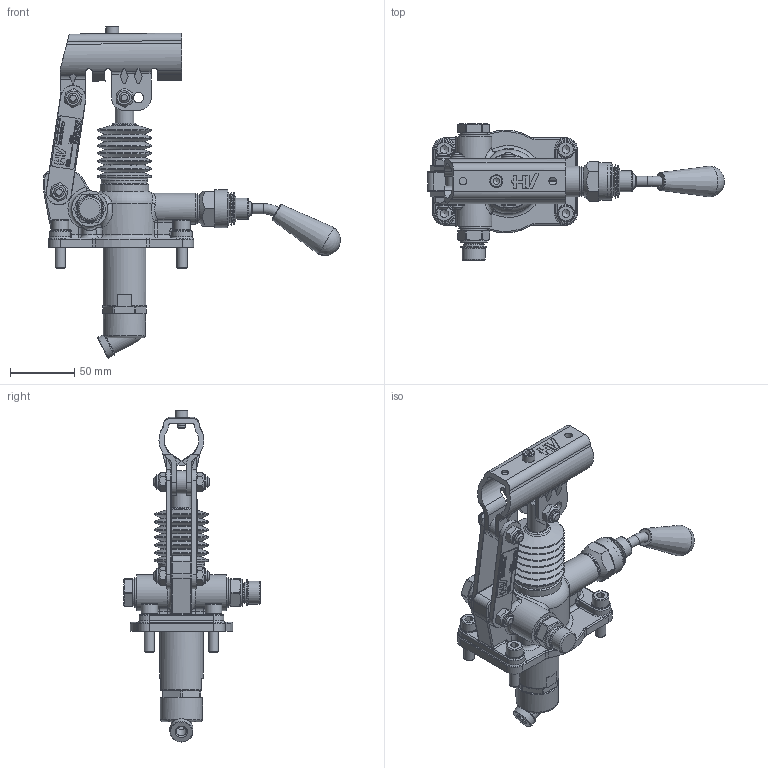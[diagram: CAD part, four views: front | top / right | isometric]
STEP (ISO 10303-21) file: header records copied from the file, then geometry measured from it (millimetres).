
FILE_DESCRIPTION((''),'2;1');
FILE_NAME('G:\HV_HYDRAULIC\AZIENDA_HV_HYDRAULIC\ARCHIVIO_DISEGNI\5_PRODOTTI_FINITI\1_POMPE_MANUALI\6050_PM_12\6050.0140_PM_12_mna-s_(HV)\6050.0140.stp','2024-02-28T07:53:17',('christian.scardovi'),(''),'Autodesk Inventor 2013','Autodesk Inventor 2013','');
FILE_SCHEMA(('AUTOMOTIVE_DESIGN { 1 0 10303 214 1 1 1 1 }'));
Length unit declared in the file: millimetre
Products named in the file (1): 6050.0140
Bounding box: 231.43 x 106.5 x 258.81 mm (x, y, z)
Volume: 414366.6 mm3; surface area: 124552.6 mm2
Topology: 3 solids, 3 shells, 1479 faces, 3691 edges, 2324 vertices
Faces by surface type: plane 716, cylinder 305, bspline 190, cone 145, torus 107, sphere 16
Full cylindrical faces by diameter (mm): 3 x2, 4 x1, 5 x4, 5.5 x1, 6 x4, 6.5 x2, 8 x17, 9 x2, 9.2 x1, 10 x6, 10.376 x1, 11.05 x6, 12 x5, 13 x4, 13.2 x1, 13.468 x1, 14 x4, 14.5 x1, 14.6 x1, 14.95 x2, 15 x4, 15.5 x1, 16 x3, 16.468 x1, 16.6 x1, 18 x5, 19.7 x1, 20 x4, 21 x3, 22 x2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
Entity records: 45735 total; most frequent: CARTESIAN_POINT 11723, ORIENTED_EDGE 6674, DIRECTION 6241, EDGE_CURVE 3337, VERTEX_POINT 2247, AXIS2_PLACEMENT_3D 2216, EDGE_LOOP 1884, VECTOR 1809
